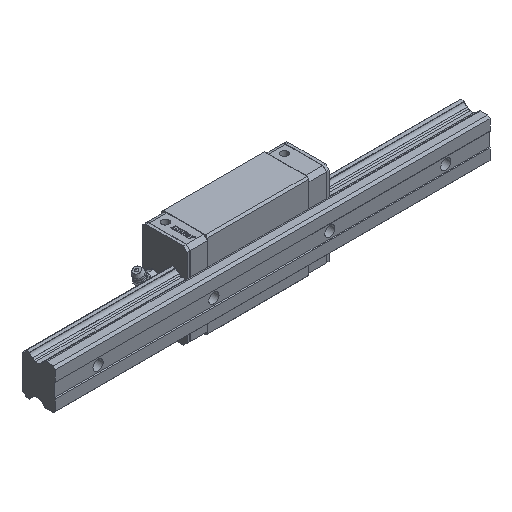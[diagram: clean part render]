
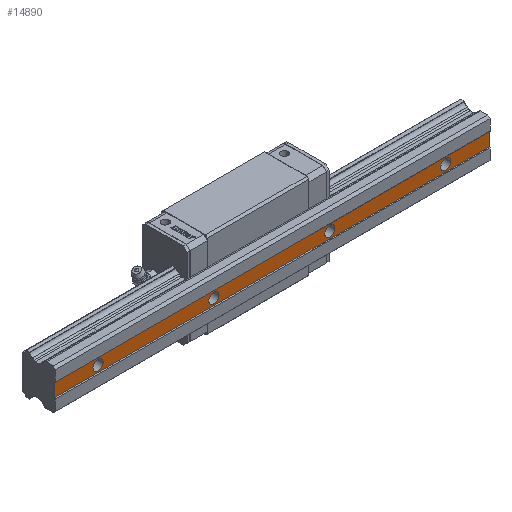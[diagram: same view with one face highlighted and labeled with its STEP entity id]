
A CAD part, isometric view. The second image highlights one B-rep face of the part: STEP entity #14890.
In plain terms, the highlighted planar face has unit normal (0, -1, 0).
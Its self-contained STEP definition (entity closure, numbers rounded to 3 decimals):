
#328=FACE_BOUND('',#2403,.T.);
#329=FACE_BOUND('',#2404,.T.);
#330=FACE_BOUND('',#2405,.T.);
#331=FACE_BOUND('',#2406,.T.);
#403=CIRCLE('',#15787,3.5);
#407=CIRCLE('',#15794,3.5);
#411=CIRCLE('',#15801,3.5);
#415=CIRCLE('',#15808,3.5);
#943=PLANE('',#15829);
#1544=FACE_OUTER_BOUND('',#2402,.T.);
#2402=EDGE_LOOP('',(#10902,#10903,#10904,#10905));
#2403=EDGE_LOOP('',(#10906));
#2404=EDGE_LOOP('',(#10907));
#2405=EDGE_LOOP('',(#10908));
#2406=EDGE_LOOP('',(#10909));
#3437=LINE('',#23636,#5060);
#3446=LINE('',#23668,#5069);
#3447=LINE('',#23670,#5070);
#3448=LINE('',#23671,#5071);
#5060=VECTOR('',#17452,10.);
#5069=VECTOR('',#17477,79.9);
#5070=VECTOR('',#17478,79.9);
#5071=VECTOR('',#17479,10.);
#6791=VERTEX_POINT('',#23548);
#6795=VERTEX_POINT('',#23559);
#6799=VERTEX_POINT('',#23570);
#6803=VERTEX_POINT('',#23581);
#6828=VERTEX_POINT('',#23633);
#6829=VERTEX_POINT('',#23635);
#6844=VERTEX_POINT('',#23667);
#6845=VERTEX_POINT('',#23669);
#8378=EDGE_CURVE('',#6791,#6791,#403,.T.);
#8382=EDGE_CURVE('',#6795,#6795,#407,.T.);
#8386=EDGE_CURVE('',#6799,#6799,#411,.T.);
#8390=EDGE_CURVE('',#6803,#6803,#415,.T.);
#8416=EDGE_CURVE('',#6828,#6829,#3437,.T.);
#8432=EDGE_CURVE('',#6829,#6844,#3446,.T.);
#8433=EDGE_CURVE('',#6828,#6845,#3447,.T.);
#8434=EDGE_CURVE('',#6844,#6845,#3448,.T.);
#10902=ORIENTED_EDGE('',*,*,#8432,.F.);
#10903=ORIENTED_EDGE('',*,*,#8416,.F.);
#10904=ORIENTED_EDGE('',*,*,#8433,.T.);
#10905=ORIENTED_EDGE('',*,*,#8434,.F.);
#10906=ORIENTED_EDGE('',*,*,#8378,.T.);
#10907=ORIENTED_EDGE('',*,*,#8382,.T.);
#10908=ORIENTED_EDGE('',*,*,#8386,.T.);
#10909=ORIENTED_EDGE('',*,*,#8390,.T.);
#14890=ADVANCED_FACE('',(#1544,#328,#329,#330,#331),#943,.T.);
#15787=AXIS2_PLACEMENT_3D('',#23549,#17368,#17369);
#15794=AXIS2_PLACEMENT_3D('',#23560,#17382,#17383);
#15801=AXIS2_PLACEMENT_3D('',#23571,#17396,#17397);
#15808=AXIS2_PLACEMENT_3D('',#23582,#17410,#17411);
#15829=AXIS2_PLACEMENT_3D('',#23666,#17475,#17476);
#17368=DIRECTION('center_axis',(0.,1.,0.));
#17369=DIRECTION('ref_axis',(1.,0.,0.));
#17382=DIRECTION('center_axis',(0.,1.,0.));
#17383=DIRECTION('ref_axis',(1.,0.,0.));
#17396=DIRECTION('center_axis',(0.,1.,0.));
#17397=DIRECTION('ref_axis',(1.,0.,0.));
#17410=DIRECTION('center_axis',(0.,1.,0.));
#17411=DIRECTION('ref_axis',(1.,0.,0.));
#17452=DIRECTION('',(-1.,0.,0.));
#17475=DIRECTION('center_axis',(0.,-1.,0.));
#17476=DIRECTION('ref_axis',(1.,0.,0.));
#17477=DIRECTION('',(0.,0.,1.));
#17478=DIRECTION('',(0.,0.,1.));
#17479=DIRECTION('',(1.,0.,0.));
#23548=CARTESIAN_POINT('',(-3.5,-22.5,-125.1));
#23549=CARTESIAN_POINT('Origin',(0.,-22.5,-125.1));
#23559=CARTESIAN_POINT('',(-3.5,-22.5,-205.1));
#23560=CARTESIAN_POINT('Origin',(0.,-22.5,-205.1));
#23570=CARTESIAN_POINT('',(-3.5,-22.5,-365.1));
#23571=CARTESIAN_POINT('Origin',(0.,-22.5,-365.1));
#23581=CARTESIAN_POINT('',(-3.5,-22.5,-285.1));
#23582=CARTESIAN_POINT('Origin',(0.,-22.5,-285.1));
#23633=CARTESIAN_POINT('',(4.5,-22.5,-395.1));
#23635=CARTESIAN_POINT('',(-4.5,-22.5,-395.1));
#23636=CARTESIAN_POINT('',(4.5,-22.5,-395.1));
#23666=CARTESIAN_POINT('Origin',(-4.5,-22.5,-100.1));
#23667=CARTESIAN_POINT('',(-4.5,-22.5,-95.1));
#23668=CARTESIAN_POINT('',(-4.5,-22.5,-135.));
#23669=CARTESIAN_POINT('',(4.5,-22.5,-95.1));
#23670=CARTESIAN_POINT('',(4.5,-22.5,-135.));
#23671=CARTESIAN_POINT('',(-2.25,-22.5,-95.1));
